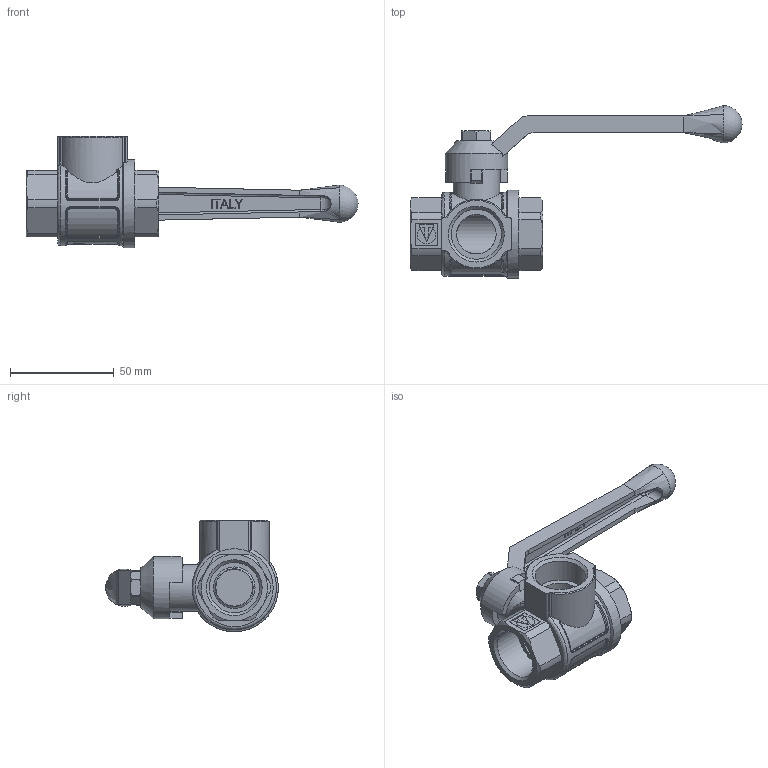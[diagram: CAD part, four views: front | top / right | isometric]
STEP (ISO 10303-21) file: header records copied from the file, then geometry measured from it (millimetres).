
FILE_DESCRIPTION(/* description */ (''),/* implementation_level */ '2;1');
FILE_NAME(/* name */ 'E:\Артём\00000\Работа удаленка\VT.360.N.05.stp',/* time_stamp */ '2020-04-28T12:20:44+03:00',/* author */ ('BeN_GaN'),/* organization */ (''),/* preprocessor_version */ 'ST-DEVELOPER v18',/* originating_system */ 'Autodesk Inventor 2020',/* authorisation */ '');
FILE_SCHEMA (('AUTOMOTIVE_DESIGN { 1 0 10303 214 3 1 1 }'));
Length unit declared in the file: millimetre
Products named in the file (1): VT.360.N.05
Bounding box: 160 x 83.25 x 53.75 mm (x, y, z)
Volume: 68388.9 mm3; surface area: 35233.4 mm2
Topology: 1 solids, 2 shells, 577 faces, 1583 edges, 1029 vertices
Faces by surface type: plane 260, cylinder 129, bspline 113, cone 53, torus 16, sphere 6
Full cylindrical faces by diameter (mm): 9.5 x3, 14 x1, 14.3 x1, 15 x1, 16.5 x2, 19 x2, 20 x3, 20.4 x2, 22.5 x1, 24 x1, 24.2 x2, 24.4 x1, 28 x2, 30 x1, 34.5 x1, 42.5 x1
Entity records: 21862 total; most frequent: CARTESIAN_POINT 7802, ORIENTED_EDGE 3154, DIRECTION 2670, EDGE_CURVE 1577, VERTEX_POINT 1029, AXIS2_PLACEMENT_3D 1008, LINE 654, VECTOR 654
